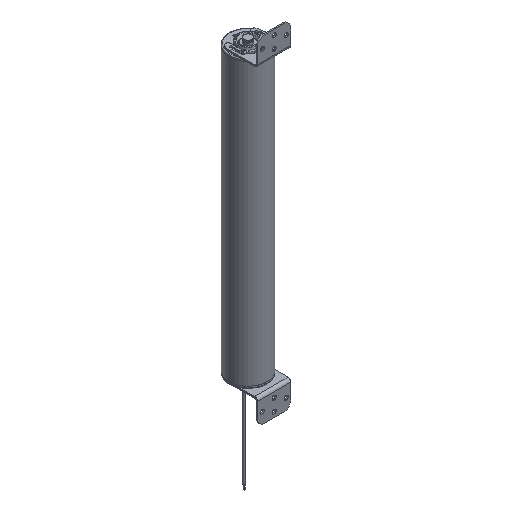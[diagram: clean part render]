
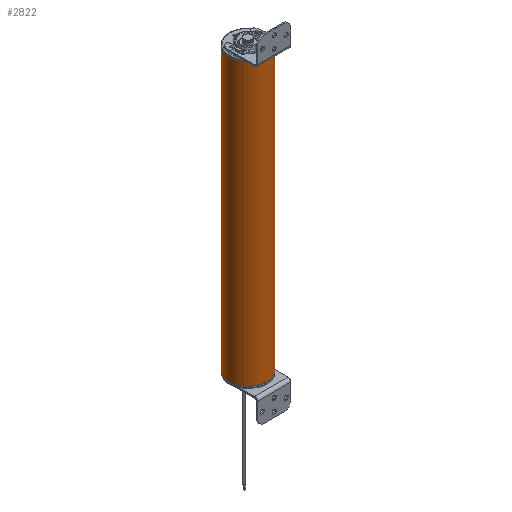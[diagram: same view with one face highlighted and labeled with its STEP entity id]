
A CAD part, isometric view. The second image highlights one B-rep face of the part: STEP entity #2822.
In plain terms, the highlighted cylindrical face has radius 40 mm (diameter 80 mm), a partial arc.
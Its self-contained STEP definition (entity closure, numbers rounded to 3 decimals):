
#224 = DIRECTION ( 'NONE',  ( 0., 0., -1. ) ) ;
#845 = VERTEX_POINT ( 'NONE', #20564 ) ;
#2376 = DIRECTION ( 'NONE',  ( 0., 0., -1. ) ) ;
#2822 = ADVANCED_FACE ( 'NONE', ( #17834 ), #14783, .T. ) ;
#3547 = EDGE_CURVE ( 'NONE', #39670, #15005, #17939, .T. ) ;
#3744 = EDGE_CURVE ( 'NONE', #39670, #24493, #28471, .T. ) ;
#4757 = EDGE_CURVE ( 'NONE', #845, #15005, #26413, .T. ) ;
#5415 = DIRECTION ( 'NONE',  ( -1., 0., 0. ) ) ;
#12658 = LINE ( 'NONE', #18568, #34859 ) ;
#12868 = AXIS2_PLACEMENT_3D ( 'NONE', #13418, #25439, #32684 ) ;
#13224 = DIRECTION ( 'NONE',  ( 0., 0., 1. ) ) ;
#13418 = CARTESIAN_POINT ( 'NONE',  ( 0., 0., 590.7 ) ) ;
#14783 = CYLINDRICAL_SURFACE ( 'NONE', #34123, 40. ) ;
#15005 = VERTEX_POINT ( 'NONE', #25501 ) ;
#15511 = DIRECTION ( 'NONE',  ( 0., 0., -1. ) ) ;
#16520 = ORIENTED_EDGE ( 'NONE', *, *, #3547, .F. ) ;
#17834 = FACE_OUTER_BOUND ( 'NONE', #38222, .T. ) ;
#17939 = LINE ( 'NONE', #27881, #29106 ) ;
#18041 = CARTESIAN_POINT ( 'NONE',  ( 0., 0., 590.7 ) ) ;
#18568 = CARTESIAN_POINT ( 'NONE',  ( 40., 0., 590.7 ) ) ;
#19349 = CARTESIAN_POINT ( 'NONE',  ( 0., 0., 0. ) ) ;
#19463 = ORIENTED_EDGE ( 'NONE', *, *, #3744, .T. ) ;
#20564 = CARTESIAN_POINT ( 'NONE',  ( 40., 0., 0. ) ) ;
#21303 = CARTESIAN_POINT ( 'NONE',  ( -40., 0., 590.7 ) ) ;
#22991 = EDGE_CURVE ( 'NONE', #24493, #845, #12658, .T. ) ;
#23152 = AXIS2_PLACEMENT_3D ( 'NONE', #19349, #13224, #31737 ) ;
#24493 = VERTEX_POINT ( 'NONE', #39892 ) ;
#25439 = DIRECTION ( 'NONE',  ( 0., 0., -1. ) ) ;
#25501 = CARTESIAN_POINT ( 'NONE',  ( -40., 0., 0. ) ) ;
#26413 = CIRCLE ( 'NONE', #23152, 40. ) ;
#26526 = ORIENTED_EDGE ( 'NONE', *, *, #22991, .T. ) ;
#27881 = CARTESIAN_POINT ( 'NONE',  ( -40., 0., 590.7 ) ) ;
#28471 = CIRCLE ( 'NONE', #12868, 40. ) ;
#29106 = VECTOR ( 'NONE', #224, 1000. ) ;
#30756 = ORIENTED_EDGE ( 'NONE', *, *, #4757, .T. ) ;
#31737 = DIRECTION ( 'NONE',  ( -1., 0., 0. ) ) ;
#32684 = DIRECTION ( 'NONE',  ( -1., 0., 0. ) ) ;
#34123 = AXIS2_PLACEMENT_3D ( 'NONE', #18041, #2376, #5415 ) ;
#34859 = VECTOR ( 'NONE', #15511, 1000. ) ;
#38222 = EDGE_LOOP ( 'NONE', ( #19463, #26526, #30756, #16520 ) ) ;
#39670 = VERTEX_POINT ( 'NONE', #21303 ) ;
#39892 = CARTESIAN_POINT ( 'NONE',  ( 40., 0., 590.7 ) ) ;
